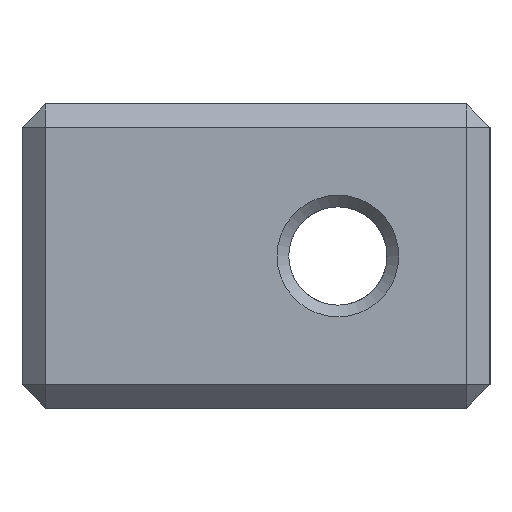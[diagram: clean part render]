
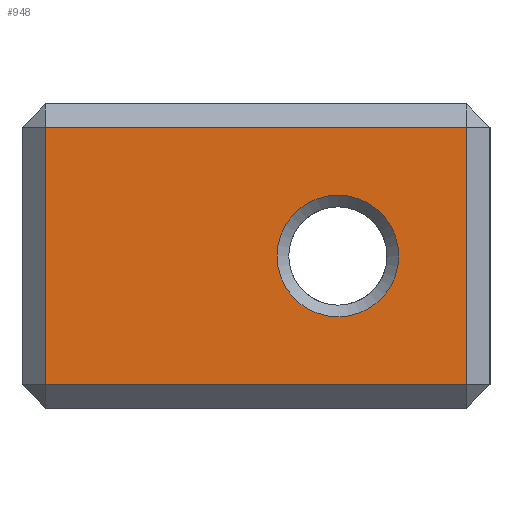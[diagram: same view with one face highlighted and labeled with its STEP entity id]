
A CAD part, left-side view. The second image highlights one B-rep face of the part: STEP entity #948.
In plain terms, the highlighted planar face has unit normal (-1, 0, 0).
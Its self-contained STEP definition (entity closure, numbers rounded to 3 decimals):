
#24 = CARTESIAN_POINT ( 'NONE',  ( -25., 9., -5.5 ) ) ;
#28 = CARTESIAN_POINT ( 'NONE',  ( -25., 9., 6.5 ) ) ;
#31 = DIRECTION ( 'NONE',  ( 0., 0., -1. ) ) ;
#103 = LINE ( 'NONE', #1194, #457 ) ;
#111 = VERTEX_POINT ( 'NONE', #514 ) ;
#268 = ORIENTED_EDGE ( 'NONE', *, *, #1004, .T. ) ;
#276 = CARTESIAN_POINT ( 'NONE',  ( -25., -9., -5.5 ) ) ;
#306 = DIRECTION ( 'NONE',  ( 0., 1., 0. ) ) ;
#338 = VECTOR ( 'NONE', #31, 1000. ) ;
#348 = FACE_BOUND ( 'NONE', #383, .T. ) ;
#373 = EDGE_CURVE ( 'NONE', #515, #898, #103, .T. ) ;
#383 = EDGE_LOOP ( 'NONE', ( #571 ) ) ;
#422 = VERTEX_POINT ( 'NONE', #24 ) ;
#432 = LINE ( 'NONE', #1219, #1023 ) ;
#450 = DIRECTION ( 'NONE',  ( 1., 0., 0. ) ) ;
#457 = VECTOR ( 'NONE', #306, 1000. ) ;
#488 = CARTESIAN_POINT ( 'NONE',  ( -25., -3.5, 0. ) ) ;
#514 = CARTESIAN_POINT ( 'NONE',  ( -25., -3.5, -2.6 ) ) ;
#515 = VERTEX_POINT ( 'NONE', #625 ) ;
#571 = ORIENTED_EDGE ( 'NONE', *, *, #1250, .T. ) ;
#593 = DIRECTION ( 'NONE',  ( 0., 0., -1. ) ) ;
#601 = EDGE_LOOP ( 'NONE', ( #268, #1114, #669, #1295 ) ) ;
#613 = AXIS2_PLACEMENT_3D ( 'NONE', #1137, #450, #847 ) ;
#625 = CARTESIAN_POINT ( 'NONE',  ( -25., -9., 5.5 ) ) ;
#639 = LINE ( 'NONE', #1037, #1107 ) ;
#669 = ORIENTED_EDGE ( 'NONE', *, *, #1001, .T. ) ;
#695 = VERTEX_POINT ( 'NONE', #276 ) ;
#723 = PLANE ( 'NONE',  #613 ) ;
#814 = DIRECTION ( 'NONE',  ( 0., -1., 0. ) ) ;
#847 = DIRECTION ( 'NONE',  ( 0., 0., -1. ) ) ;
#856 = DIRECTION ( 'NONE',  ( 0., 0., 1. ) ) ;
#898 = VERTEX_POINT ( 'NONE', #906 ) ;
#906 = CARTESIAN_POINT ( 'NONE',  ( -25., 9., 5.5 ) ) ;
#948 = ADVANCED_FACE ( 'NONE', ( #348, #1129 ), #723, .F. ) ;
#984 = DIRECTION ( 'NONE',  ( 1., 0., 0. ) ) ;
#1001 = EDGE_CURVE ( 'NONE', #898, #422, #1027, .T. ) ;
#1004 = EDGE_CURVE ( 'NONE', #695, #515, #639, .T. ) ;
#1023 = VECTOR ( 'NONE', #814, 1000. ) ;
#1027 = LINE ( 'NONE', #28, #338 ) ;
#1037 = CARTESIAN_POINT ( 'NONE',  ( -25., -9., 6.5 ) ) ;
#1089 = EDGE_CURVE ( 'NONE', #422, #695, #432, .T. ) ;
#1107 = VECTOR ( 'NONE', #856, 1000. ) ;
#1114 = ORIENTED_EDGE ( 'NONE', *, *, #373, .T. ) ;
#1129 = FACE_OUTER_BOUND ( 'NONE', #601, .T. ) ;
#1137 = CARTESIAN_POINT ( 'NONE',  ( -25., -10., 6.5 ) ) ;
#1146 = CIRCLE ( 'NONE', #1186, 2.6 ) ;
#1186 = AXIS2_PLACEMENT_3D ( 'NONE', #488, #984, #593 ) ;
#1194 = CARTESIAN_POINT ( 'NONE',  ( -25., -10., 5.5 ) ) ;
#1219 = CARTESIAN_POINT ( 'NONE',  ( -25., -10., -5.5 ) ) ;
#1250 = EDGE_CURVE ( 'NONE', #111, #111, #1146, .T. ) ;
#1295 = ORIENTED_EDGE ( 'NONE', *, *, #1089, .T. ) ;
